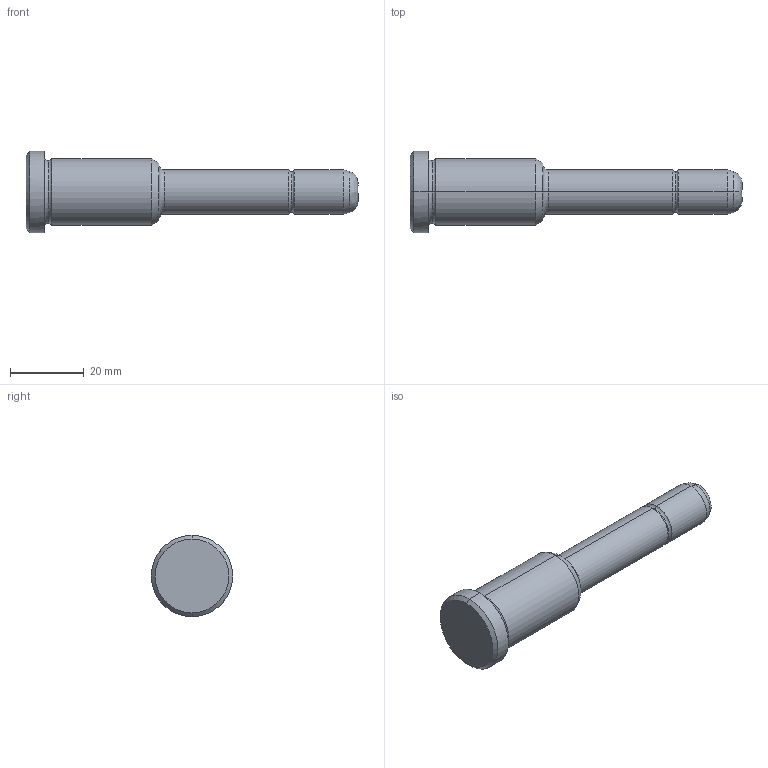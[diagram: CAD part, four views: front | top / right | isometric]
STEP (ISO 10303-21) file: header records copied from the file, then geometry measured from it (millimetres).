
FILE_DESCRIPTION(('CATIA V5 STEP Exchange'),'2;1');
FILE_NAME('C:\Users\Utente\Desktop\IO LAVORO\3D X SITO CF\X SITO\PLASTICA\351\351-12X36X90.stp','2021-08-17T12:28:46+00:00',('none'),('none'),'CATIA Version 5 Release 20 GA (IN-10)','CATIA V5 STEP AP203','none');
FILE_SCHEMA(('CONFIG_CONTROL_DESIGN'));
Length unit declared in the file: millimetre
Products named in the file (1): 351-12X36X90
Bounding box: 90 x 22 x 22 mm (x, y, z)
Volume: 15655.3 mm3; surface area: 4734.5 mm2
Topology: 1 solids, 1 shells, 30 faces, 86 edges, 60 vertices
Faces by surface type: torus 10, cylinder 8, cone 6, plane 4, bspline 2
Entity records: 1128 total; most frequent: CARTESIAN_POINT 343, ORIENTED_EDGE 172, DIRECTION 124, EDGE_CURVE 86, AXIS2_PLACEMENT_3D 83, VERTEX_POINT 60, CIRCLE 54, EDGE_LOOP 32
